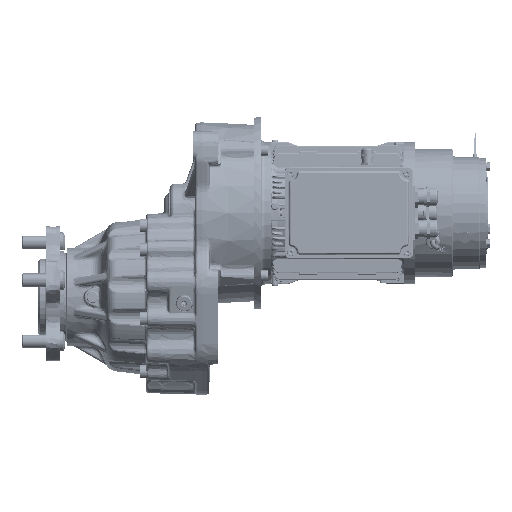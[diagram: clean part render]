
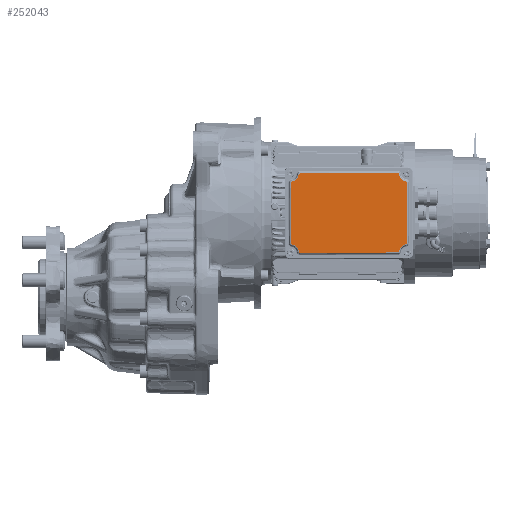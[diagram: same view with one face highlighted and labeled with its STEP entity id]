
A CAD part, front view. The second image highlights one B-rep face of the part: STEP entity #252043.
In plain terms, the highlighted planar face has unit normal (0, -1, 0).
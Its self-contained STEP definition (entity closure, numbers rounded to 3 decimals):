
#6234=ELLIPSE('',#270932,1.504,1.5);
#6235=ELLIPSE('',#270933,1.504,1.5);
#6236=ELLIPSE('',#270935,1.504,1.5);
#6237=ELLIPSE('',#270936,1.504,1.5);
#6238=ELLIPSE('',#270938,1.504,1.5);
#6239=ELLIPSE('',#270939,1.504,1.5);
#6240=ELLIPSE('',#270941,1.504,1.5);
#6241=ELLIPSE('',#270942,1.504,1.5);
#16706=PLANE('',#270930);
#27798=FACE_OUTER_BOUND('',#43387,.T.);
#43387=EDGE_LOOP('',(#181322,#181323,#181324,#181325,#181326,#181327,#181328,
#181329,#181330,#181331,#181332,#181333,#181334,#181335,#181336,#181337));
#62432=LINE('',#445762,#79044);
#62433=LINE('',#445770,#79045);
#62434=LINE('',#445778,#79046);
#62435=LINE('',#445786,#79047);
#79044=VECTOR('',#311830,1000.);
#79045=VECTOR('',#311837,1000.);
#79046=VECTOR('',#311844,1000.);
#79047=VECTOR('',#311851,1000.);
#92132=CIRCLE('',#270931,9.633);
#92133=CIRCLE('',#270934,9.633);
#92134=CIRCLE('',#270937,9.633);
#92135=CIRCLE('',#270940,9.633);
#108825=VERTEX_POINT('',#445756);
#108826=VERTEX_POINT('',#445757);
#108827=VERTEX_POINT('',#445759);
#108828=VERTEX_POINT('',#445761);
#108829=VERTEX_POINT('',#445763);
#108830=VERTEX_POINT('',#445765);
#108831=VERTEX_POINT('',#445767);
#108832=VERTEX_POINT('',#445769);
#108833=VERTEX_POINT('',#445771);
#108834=VERTEX_POINT('',#445773);
#108835=VERTEX_POINT('',#445775);
#108836=VERTEX_POINT('',#445777);
#108837=VERTEX_POINT('',#445779);
#108838=VERTEX_POINT('',#445781);
#108839=VERTEX_POINT('',#445783);
#108840=VERTEX_POINT('',#445785);
#135116=EDGE_CURVE('',#108825,#108826,#92132,.T.);
#135117=EDGE_CURVE('',#108826,#108827,#6234,.T.);
#135118=EDGE_CURVE('',#108827,#108828,#62432,.T.);
#135119=EDGE_CURVE('',#108828,#108829,#6235,.T.);
#135120=EDGE_CURVE('',#108829,#108830,#92133,.T.);
#135121=EDGE_CURVE('',#108830,#108831,#6236,.T.);
#135122=EDGE_CURVE('',#108831,#108832,#62433,.T.);
#135123=EDGE_CURVE('',#108832,#108833,#6237,.T.);
#135124=EDGE_CURVE('',#108833,#108834,#92134,.T.);
#135125=EDGE_CURVE('',#108834,#108835,#6238,.T.);
#135126=EDGE_CURVE('',#108835,#108836,#62434,.T.);
#135127=EDGE_CURVE('',#108836,#108837,#6239,.T.);
#135128=EDGE_CURVE('',#108837,#108838,#92135,.T.);
#135129=EDGE_CURVE('',#108838,#108839,#6240,.T.);
#135130=EDGE_CURVE('',#108839,#108840,#62435,.T.);
#135131=EDGE_CURVE('',#108840,#108825,#6241,.T.);
#181322=ORIENTED_EDGE('',*,*,#135116,.T.);
#181323=ORIENTED_EDGE('',*,*,#135117,.T.);
#181324=ORIENTED_EDGE('',*,*,#135118,.T.);
#181325=ORIENTED_EDGE('',*,*,#135119,.T.);
#181326=ORIENTED_EDGE('',*,*,#135120,.T.);
#181327=ORIENTED_EDGE('',*,*,#135121,.T.);
#181328=ORIENTED_EDGE('',*,*,#135122,.T.);
#181329=ORIENTED_EDGE('',*,*,#135123,.T.);
#181330=ORIENTED_EDGE('',*,*,#135124,.T.);
#181331=ORIENTED_EDGE('',*,*,#135125,.T.);
#181332=ORIENTED_EDGE('',*,*,#135126,.T.);
#181333=ORIENTED_EDGE('',*,*,#135127,.T.);
#181334=ORIENTED_EDGE('',*,*,#135128,.T.);
#181335=ORIENTED_EDGE('',*,*,#135129,.T.);
#181336=ORIENTED_EDGE('',*,*,#135130,.T.);
#181337=ORIENTED_EDGE('',*,*,#135131,.T.);
#252043=ADVANCED_FACE('',(#27798),#16706,.T.);
#270930=AXIS2_PLACEMENT_3D('',#445755,#311824,#311825);
#270931=AXIS2_PLACEMENT_3D('',#445758,#311826,#311827);
#270932=AXIS2_PLACEMENT_3D('',#445760,#311828,#311829);
#270933=AXIS2_PLACEMENT_3D('',#445764,#311831,#311832);
#270934=AXIS2_PLACEMENT_3D('',#445766,#311833,#311834);
#270935=AXIS2_PLACEMENT_3D('',#445768,#311835,#311836);
#270936=AXIS2_PLACEMENT_3D('',#445772,#311838,#311839);
#270937=AXIS2_PLACEMENT_3D('',#445774,#311840,#311841);
#270938=AXIS2_PLACEMENT_3D('',#445776,#311842,#311843);
#270939=AXIS2_PLACEMENT_3D('',#445780,#311845,#311846);
#270940=AXIS2_PLACEMENT_3D('',#445782,#311847,#311848);
#270941=AXIS2_PLACEMENT_3D('',#445784,#311849,#311850);
#270942=AXIS2_PLACEMENT_3D('',#445787,#311852,#311853);
#311824=DIRECTION('center_axis',(0.,-1.,0.));
#311825=DIRECTION('ref_axis',(0.002,0.,
-1.));
#311826=DIRECTION('center_axis',(0.,1.,0.));
#311827=DIRECTION('ref_axis',(1.,0.,0.002));
#311828=DIRECTION('center_axis',(0.,-1.,0.));
#311829=DIRECTION('ref_axis',(0.662,0.,0.75));
#311830=DIRECTION('',(-1.,0.,-0.002));
#311831=DIRECTION('center_axis',(0.,-1.,0.));
#311832=DIRECTION('ref_axis',(-0.665,0.,
0.747));
#311833=DIRECTION('center_axis',(0.,1.,0.));
#311834=DIRECTION('ref_axis',(1.,0.,0.002));
#311835=DIRECTION('center_axis',(0.,-1.,0.));
#311836=DIRECTION('ref_axis',(-0.757,0.,
0.653));
#311837=DIRECTION('',(0.002,0.,-1.));
#311838=DIRECTION('center_axis',(0.,-1.,0.));
#311839=DIRECTION('ref_axis',(-0.754,0.,-0.657));
#311840=DIRECTION('center_axis',(0.,1.,0.));
#311841=DIRECTION('ref_axis',(1.,0.,0.002));
#311842=DIRECTION('center_axis',(0.,-1.,0.));
#311843=DIRECTION('ref_axis',(0.662,0.,0.75));
#311844=DIRECTION('',(1.,0.,0.002));
#311845=DIRECTION('center_axis',(0.,-1.,0.));
#311846=DIRECTION('ref_axis',(-0.665,0.,0.747));
#311847=DIRECTION('center_axis',(0.,1.,0.));
#311848=DIRECTION('ref_axis',(1.,0.,0.002));
#311849=DIRECTION('center_axis',(0.,-1.,0.));
#311850=DIRECTION('ref_axis',(-0.757,0.,0.653));
#311851=DIRECTION('',(-0.002,0.,1.));
#311852=DIRECTION('center_axis',(0.,-1.,0.));
#311853=DIRECTION('ref_axis',(-0.754,0.,-0.657));
#445755=CARTESIAN_POINT('Origin',(167.002,-144.639,94.945));
#445756=CARTESIAN_POINT('',(234.799,-144.639,132.563));
#445757=CARTESIAN_POINT('',(226.585,-144.639,140.928));
#445758=CARTESIAN_POINT('Origin',(236.146,-144.639,142.101));
#445759=CARTESIAN_POINT('',(225.094,-144.639,142.243));
#445760=CARTESIAN_POINT('Origin',(225.094,-144.639,140.741));
#445761=CARTESIAN_POINT('',(108.697,-144.639,141.981));
#445762=CARTESIAN_POINT('',(108.763,-144.639,141.981));
#445763=CARTESIAN_POINT('',(107.213,-144.639,140.659));
#445764=CARTESIAN_POINT('Origin',(108.704,-144.639,140.479));
#445765=CARTESIAN_POINT('',(99.036,-144.639,132.257));
#445766=CARTESIAN_POINT('Origin',(97.646,-144.639,141.789));
#445767=CARTESIAN_POINT('',(97.754,-144.639,130.771));
#445768=CARTESIAN_POINT('Origin',(99.256,-144.639,130.771));
#445769=CARTESIAN_POINT('',(97.917,-144.639,58.808));
#445770=CARTESIAN_POINT('',(97.916,-144.639,58.872));
#445771=CARTESIAN_POINT('',(99.205,-144.639,57.328));
#445772=CARTESIAN_POINT('Origin',(99.419,-144.639,58.814));
#445773=CARTESIAN_POINT('',(107.42,-144.639,48.963));
#445774=CARTESIAN_POINT('Origin',(97.858,-144.639,47.789));
#445775=CARTESIAN_POINT('',(108.91,-144.639,47.647));
#445776=CARTESIAN_POINT('Origin',(108.91,-144.639,49.149));
#445777=CARTESIAN_POINT('',(225.307,-144.639,47.91));
#445778=CARTESIAN_POINT('',(225.241,-144.639,47.91));
#445779=CARTESIAN_POINT('',(226.791,-144.639,49.232));
#445780=CARTESIAN_POINT('Origin',(225.3,-144.639,49.412));
#445781=CARTESIAN_POINT('',(234.968,-144.639,57.634));
#445782=CARTESIAN_POINT('Origin',(236.358,-144.639,48.102));
#445783=CARTESIAN_POINT('',(236.25,-144.639,59.12));
#445784=CARTESIAN_POINT('Origin',(234.748,-144.639,59.12));
#445785=CARTESIAN_POINT('',(236.088,-144.639,131.083));
#445786=CARTESIAN_POINT('',(236.088,-144.639,131.019));
#445787=CARTESIAN_POINT('Origin',(234.586,-144.639,131.076));
